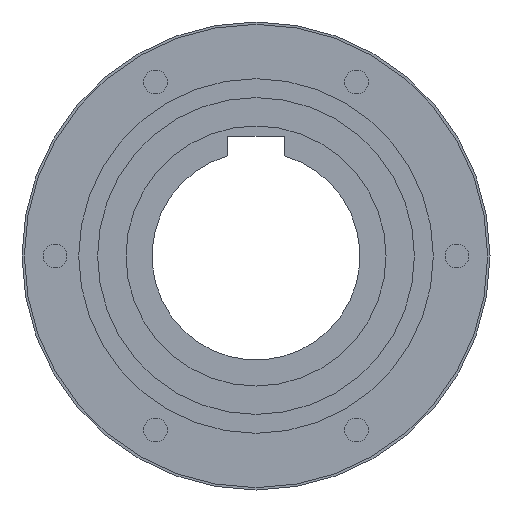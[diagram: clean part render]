
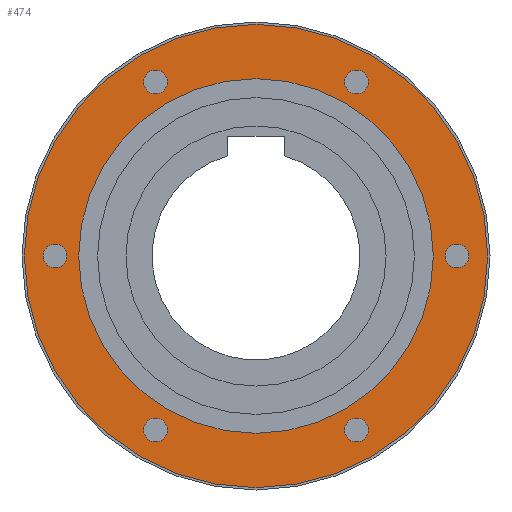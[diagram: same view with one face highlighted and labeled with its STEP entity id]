
A CAD part, left-side view. The second image highlights one B-rep face of the part: STEP entity #474.
In plain terms, the highlighted planar face has unit normal (-1, 0, 0).
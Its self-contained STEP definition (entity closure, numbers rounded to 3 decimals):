
#17=FACE_BOUND('',#115,.T.);
#18=FACE_BOUND('',#116,.T.);
#19=FACE_BOUND('',#117,.T.);
#20=FACE_BOUND('',#118,.T.);
#21=FACE_BOUND('',#119,.T.);
#22=FACE_BOUND('',#120,.T.);
#23=FACE_BOUND('',#121,.T.);
#41=PLANE('',#561);
#77=FACE_OUTER_BOUND('',#114,.T.);
#114=EDGE_LOOP('',(#404));
#115=EDGE_LOOP('',(#405));
#116=EDGE_LOOP('',(#406));
#117=EDGE_LOOP('',(#407));
#118=EDGE_LOOP('',(#408));
#119=EDGE_LOOP('',(#409));
#120=EDGE_LOOP('',(#410));
#121=EDGE_LOOP('',(#411));
#197=CIRCLE('',#519,49.);
#198=CIRCLE('',#521,37.5);
#204=CIRCLE('',#530,2.5);
#206=CIRCLE('',#533,2.5);
#208=CIRCLE('',#536,2.5);
#210=CIRCLE('',#539,2.5);
#212=CIRCLE('',#542,2.5);
#214=CIRCLE('',#545,2.5);
#229=VERTEX_POINT('',#766);
#230=VERTEX_POINT('',#770);
#236=VERTEX_POINT('',#788);
#238=VERTEX_POINT('',#794);
#240=VERTEX_POINT('',#800);
#242=VERTEX_POINT('',#806);
#244=VERTEX_POINT('',#812);
#246=VERTEX_POINT('',#818);
#274=EDGE_CURVE('',#229,#229,#197,.T.);
#275=EDGE_CURVE('',#230,#230,#198,.T.);
#284=EDGE_CURVE('',#236,#236,#204,.T.);
#287=EDGE_CURVE('',#238,#238,#206,.T.);
#290=EDGE_CURVE('',#240,#240,#208,.T.);
#293=EDGE_CURVE('',#242,#242,#210,.T.);
#296=EDGE_CURVE('',#244,#244,#212,.T.);
#299=EDGE_CURVE('',#246,#246,#214,.T.);
#404=ORIENTED_EDGE('',*,*,#274,.F.);
#405=ORIENTED_EDGE('',*,*,#275,.T.);
#406=ORIENTED_EDGE('',*,*,#299,.T.);
#407=ORIENTED_EDGE('',*,*,#296,.T.);
#408=ORIENTED_EDGE('',*,*,#293,.T.);
#409=ORIENTED_EDGE('',*,*,#290,.T.);
#410=ORIENTED_EDGE('',*,*,#287,.T.);
#411=ORIENTED_EDGE('',*,*,#284,.T.);
#474=ADVANCED_FACE('',(#77,#17,#18,#19,#20,#21,#22,#23),#41,.T.);
#519=AXIS2_PLACEMENT_3D('',#768,#613,#614);
#521=AXIS2_PLACEMENT_3D('',#771,#617,#618);
#530=AXIS2_PLACEMENT_3D('',#789,#638,#639);
#533=AXIS2_PLACEMENT_3D('',#795,#645,#646);
#536=AXIS2_PLACEMENT_3D('',#801,#652,#653);
#539=AXIS2_PLACEMENT_3D('',#807,#659,#660);
#542=AXIS2_PLACEMENT_3D('',#813,#666,#667);
#545=AXIS2_PLACEMENT_3D('',#819,#673,#674);
#561=AXIS2_PLACEMENT_3D('',#855,#716,#717);
#613=DIRECTION('center_axis',(1.,0.,0.));
#614=DIRECTION('ref_axis',(0.,0.,-1.));
#617=DIRECTION('center_axis',(1.,0.,0.));
#618=DIRECTION('ref_axis',(0.,0.,-1.));
#638=DIRECTION('center_axis',(1.,0.,0.));
#639=DIRECTION('ref_axis',(0.,0.,-1.));
#645=DIRECTION('center_axis',(1.,0.,0.));
#646=DIRECTION('ref_axis',(0.,0.,-1.));
#652=DIRECTION('center_axis',(1.,0.,0.));
#653=DIRECTION('ref_axis',(0.,0.,-1.));
#659=DIRECTION('center_axis',(1.,0.,0.));
#660=DIRECTION('ref_axis',(0.,0.,-1.));
#666=DIRECTION('center_axis',(1.,0.,0.));
#667=DIRECTION('ref_axis',(0.,0.,-1.));
#673=DIRECTION('center_axis',(1.,0.,0.));
#674=DIRECTION('ref_axis',(0.,0.,-1.));
#716=DIRECTION('center_axis',(-1.,0.,0.));
#717=DIRECTION('ref_axis',(0.,0.,1.));
#766=CARTESIAN_POINT('',(12.,0.,49.));
#768=CARTESIAN_POINT('Origin',(12.,0.,0.));
#770=CARTESIAN_POINT('',(12.,0.,37.5));
#771=CARTESIAN_POINT('Origin',(12.,0.,0.));
#788=CARTESIAN_POINT('',(12.,-42.5,2.5));
#789=CARTESIAN_POINT('Origin',(12.,-42.5,0.));
#794=CARTESIAN_POINT('',(12.,-21.25,-34.306));
#795=CARTESIAN_POINT('Origin',(12.,-21.25,-36.806));
#800=CARTESIAN_POINT('',(12.,21.25,-34.306));
#801=CARTESIAN_POINT('Origin',(12.,21.25,-36.806));
#806=CARTESIAN_POINT('',(12.,42.5,2.5));
#807=CARTESIAN_POINT('Origin',(12.,42.5,0.));
#812=CARTESIAN_POINT('',(12.,21.25,39.306));
#813=CARTESIAN_POINT('Origin',(12.,21.25,36.806));
#818=CARTESIAN_POINT('',(12.,-21.25,39.306));
#819=CARTESIAN_POINT('Origin',(12.,-21.25,36.806));
#855=CARTESIAN_POINT('Origin',(12.,0.,-43.25));
